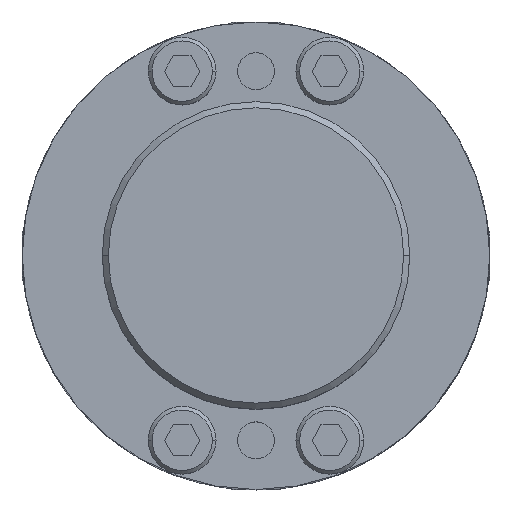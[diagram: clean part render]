
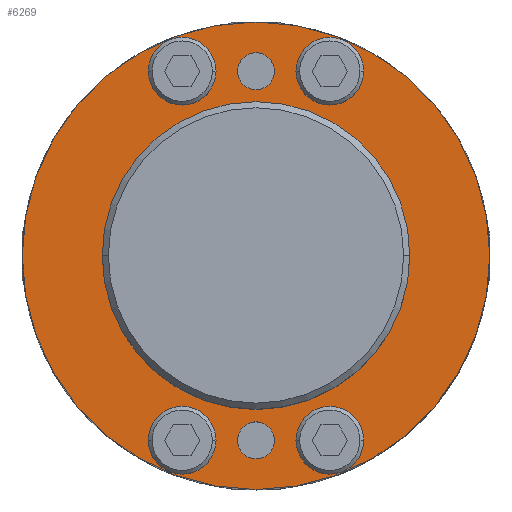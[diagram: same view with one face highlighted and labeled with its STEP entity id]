
A CAD part, top view. The second image highlights one B-rep face of the part: STEP entity #6269.
In plain terms, the highlighted planar face has unit normal (0, 0, 1).
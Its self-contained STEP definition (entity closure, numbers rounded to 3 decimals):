
#1643=CARTESIAN_POINT('',(-19.,0.,10.));
#1644=VERTEX_POINT('',#1643);
#1756=CARTESIAN_POINT('',(19.,0.,10.));
#1757=VERTEX_POINT('',#1756);
#1764=CARTESIAN_POINT('',(0.,0.0,10.0));
#1765=DIRECTION('',(0.0,0.0,-1.0));
#1766=DIRECTION('',(-1.0,0.0,0.0));
#1767=AXIS2_PLACEMENT_3D('',#1764,#1765,#1766);
#1768=CIRCLE('',#1767,19.0);
#1769=EDGE_CURVE('',#1757,#1644,#1768,.T.);
#2271=CARTESIAN_POINT('',(-12.5,0.,10.));
#2272=VERTEX_POINT('',#2271);
#2281=CARTESIAN_POINT('',(12.5,0.,10.));
#2282=VERTEX_POINT('',#2281);
#2283=CARTESIAN_POINT('',(0.,0.0,10.0));
#2284=DIRECTION('',(0.0,0.0,-1.0));
#2285=DIRECTION('',(-1.0,0.0,0.0));
#2286=AXIS2_PLACEMENT_3D('',#2283,#2284,#2285);
#2287=CIRCLE('',#2286,12.5);
#2288=EDGE_CURVE('',#2282,#2272,#2287,.T.);
#2345=CARTESIAN_POINT('',(3.25,-15.0,10.0));
#2346=VERTEX_POINT('',#2345);
#2355=CARTESIAN_POINT('',(8.75,-15.0,10.));
#2356=VERTEX_POINT('',#2355);
#2357=CARTESIAN_POINT('',(6.,-15.0,10.));
#2358=DIRECTION('',(0.0,0.0,-1.0));
#2359=DIRECTION('',(-1.0,0.0,0.0));
#2360=AXIS2_PLACEMENT_3D('',#2357,#2358,#2359);
#2361=CIRCLE('',#2360,2.75);
#2362=EDGE_CURVE('',#2356,#2346,#2361,.T.);
#2419=CARTESIAN_POINT('',(-8.75,-15.,10.));
#2420=VERTEX_POINT('',#2419);
#2429=CARTESIAN_POINT('',(-3.25,-15.0,10.));
#2430=VERTEX_POINT('',#2429);
#2431=CARTESIAN_POINT('',(-6.,-15.0,10.));
#2432=DIRECTION('',(0.0,0.0,-1.0));
#2433=DIRECTION('',(-1.0,0.0,0.0));
#2434=AXIS2_PLACEMENT_3D('',#2431,#2432,#2433);
#2435=CIRCLE('',#2434,2.75);
#2436=EDGE_CURVE('',#2430,#2420,#2435,.T.);
#2493=CARTESIAN_POINT('',(-8.75,15.,10.));
#2494=VERTEX_POINT('',#2493);
#2503=CARTESIAN_POINT('',(-3.25,15.0,10.));
#2504=VERTEX_POINT('',#2503);
#2505=CARTESIAN_POINT('',(-6.,15.0,10.));
#2506=DIRECTION('',(0.0,0.0,-1.0));
#2507=DIRECTION('',(-1.0,0.0,0.0));
#2508=AXIS2_PLACEMENT_3D('',#2505,#2506,#2507);
#2509=CIRCLE('',#2508,2.75);
#2510=EDGE_CURVE('',#2504,#2494,#2509,.T.);
#2567=CARTESIAN_POINT('',(3.25,15.0,10.0));
#2568=VERTEX_POINT('',#2567);
#2577=CARTESIAN_POINT('',(8.75,15.0,10.));
#2578=VERTEX_POINT('',#2577);
#2579=CARTESIAN_POINT('',(6.,15.0,10.));
#2580=DIRECTION('',(0.0,0.0,-1.0));
#2581=DIRECTION('',(-1.0,0.0,0.0));
#2582=AXIS2_PLACEMENT_3D('',#2579,#2580,#2581);
#2583=CIRCLE('',#2582,2.75);
#2584=EDGE_CURVE('',#2578,#2568,#2583,.T.);
#2641=CARTESIAN_POINT('',(-1.5,15.0,10.0));
#2642=VERTEX_POINT('',#2641);
#2651=CARTESIAN_POINT('',(1.5,15.0,10.0));
#2652=VERTEX_POINT('',#2651);
#2653=CARTESIAN_POINT('',(0.,15.0,10.0));
#2654=DIRECTION('',(0.0,0.0,-1.0));
#2655=DIRECTION('',(-1.0,0.0,0.0));
#2656=AXIS2_PLACEMENT_3D('',#2653,#2654,#2655);
#2657=CIRCLE('',#2656,1.5);
#2658=EDGE_CURVE('',#2652,#2642,#2657,.T.);
#2683=CARTESIAN_POINT('',(-1.5,-15.0,10.0));
#2684=VERTEX_POINT('',#2683);
#2693=CARTESIAN_POINT('',(1.5,-15.0,10.0));
#2694=VERTEX_POINT('',#2693);
#2695=CARTESIAN_POINT('',(0.,-15.0,10.0));
#2696=DIRECTION('',(0.0,0.0,-1.0));
#2697=DIRECTION('',(-1.0,0.0,0.0));
#2698=AXIS2_PLACEMENT_3D('',#2695,#2696,#2697);
#2699=CIRCLE('',#2698,1.5);
#2700=EDGE_CURVE('',#2694,#2684,#2699,.T.);
#4828=CARTESIAN_POINT('',(0.,-15.0,10.0));
#4829=DIRECTION('',(0.0,0.0,-1.0));
#4830=DIRECTION('',(-1.0,0.0,0.0));
#4831=AXIS2_PLACEMENT_3D('',#4828,#4829,#4830);
#4832=CIRCLE('',#4831,1.5);
#4833=EDGE_CURVE('',#2684,#2694,#4832,.T.);
#4852=CARTESIAN_POINT('',(0.,15.0,10.0));
#4853=DIRECTION('',(0.0,0.0,-1.0));
#4854=DIRECTION('',(-1.0,0.0,0.0));
#4855=AXIS2_PLACEMENT_3D('',#4852,#4853,#4854);
#4856=CIRCLE('',#4855,1.5);
#4857=EDGE_CURVE('',#2642,#2652,#4856,.T.);
#5078=CARTESIAN_POINT('',(6.,15.0,10.));
#5079=DIRECTION('',(0.0,0.0,-1.0));
#5080=DIRECTION('',(-1.0,0.0,0.0));
#5081=AXIS2_PLACEMENT_3D('',#5078,#5079,#5080);
#5082=CIRCLE('',#5081,2.75);
#5083=EDGE_CURVE('',#2568,#2578,#5082,.T.);
#5180=CARTESIAN_POINT('',(-6.,15.0,10.));
#5181=DIRECTION('',(0.0,0.0,-1.0));
#5182=DIRECTION('',(-1.0,0.0,0.0));
#5183=AXIS2_PLACEMENT_3D('',#5180,#5181,#5182);
#5184=CIRCLE('',#5183,2.75);
#5185=EDGE_CURVE('',#2494,#2504,#5184,.T.);
#5282=CARTESIAN_POINT('',(-6.,-15.0,10.));
#5283=DIRECTION('',(0.0,0.0,-1.0));
#5284=DIRECTION('',(-1.0,0.0,0.0));
#5285=AXIS2_PLACEMENT_3D('',#5282,#5283,#5284);
#5286=CIRCLE('',#5285,2.75);
#5287=EDGE_CURVE('',#2420,#2430,#5286,.T.);
#5384=CARTESIAN_POINT('',(6.,-15.0,10.));
#5385=DIRECTION('',(0.0,0.0,-1.0));
#5386=DIRECTION('',(-1.0,0.0,0.0));
#5387=AXIS2_PLACEMENT_3D('',#5384,#5385,#5386);
#5388=CIRCLE('',#5387,2.75);
#5389=EDGE_CURVE('',#2346,#2356,#5388,.T.);
#6118=CARTESIAN_POINT('',(0.,0.0,10.0));
#6119=DIRECTION('',(0.0,0.0,-1.0));
#6120=DIRECTION('',(-1.0,0.0,0.0));
#6121=AXIS2_PLACEMENT_3D('',#6118,#6119,#6120);
#6122=CIRCLE('',#6121,12.5);
#6123=EDGE_CURVE('',#2272,#2282,#6122,.T.);
#6226=CARTESIAN_POINT('',(-1.727,0.,10.0));
#6227=DIRECTION('',(0.0,0.0,1.0));
#6228=DIRECTION('',(-1.0,0.0,0.0));
#6229=AXIS2_PLACEMENT_3D('',#6226,#6227,#6228);
#6230=PLANE('',#6229);
#6231=CARTESIAN_POINT('',(0.,0.0,10.0));
#6232=DIRECTION('',(0.0,0.0,-1.0));
#6233=DIRECTION('',(-1.0,0.0,0.0));
#6234=AXIS2_PLACEMENT_3D('',#6231,#6232,#6233);
#6235=CIRCLE('',#6234,19.0);
#6236=EDGE_CURVE('',#1644,#1757,#6235,.T.);
#6237=ORIENTED_EDGE('',*,*,#6236,.F.);
#6238=ORIENTED_EDGE('',*,*,#1769,.F.);
#6239=EDGE_LOOP('',(#6237,#6238));
#6240=FACE_OUTER_BOUND('',#6239,.T.);
#6241=ORIENTED_EDGE('',*,*,#5287,.T.);
#6242=ORIENTED_EDGE('',*,*,#2436,.T.);
#6243=EDGE_LOOP('',(#6241,#6242));
#6244=FACE_BOUND('',#6243,.T.);
#6245=ORIENTED_EDGE('',*,*,#5389,.T.);
#6246=ORIENTED_EDGE('',*,*,#2362,.T.);
#6247=EDGE_LOOP('',(#6245,#6246));
#6248=FACE_BOUND('',#6247,.T.);
#6249=ORIENTED_EDGE('',*,*,#5083,.T.);
#6250=ORIENTED_EDGE('',*,*,#2584,.T.);
#6251=EDGE_LOOP('',(#6249,#6250));
#6252=FACE_BOUND('',#6251,.T.);
#6253=ORIENTED_EDGE('',*,*,#5185,.T.);
#6254=ORIENTED_EDGE('',*,*,#2510,.T.);
#6255=EDGE_LOOP('',(#6253,#6254));
#6256=FACE_BOUND('',#6255,.T.);
#6257=ORIENTED_EDGE('',*,*,#4833,.T.);
#6258=ORIENTED_EDGE('',*,*,#2700,.T.);
#6259=EDGE_LOOP('',(#6257,#6258));
#6260=FACE_BOUND('',#6259,.T.);
#6261=ORIENTED_EDGE('',*,*,#4857,.T.);
#6262=ORIENTED_EDGE('',*,*,#2658,.T.);
#6263=EDGE_LOOP('',(#6261,#6262));
#6264=FACE_BOUND('',#6263,.T.);
#6265=ORIENTED_EDGE('',*,*,#2288,.T.);
#6266=ORIENTED_EDGE('',*,*,#6123,.T.);
#6267=EDGE_LOOP('',(#6265,#6266));
#6268=FACE_BOUND('',#6267,.T.);
#6269=ADVANCED_FACE('',(#6240,#6244,#6248,#6252,#6256,#6260,#6264,#6268),#6230,.T.);
